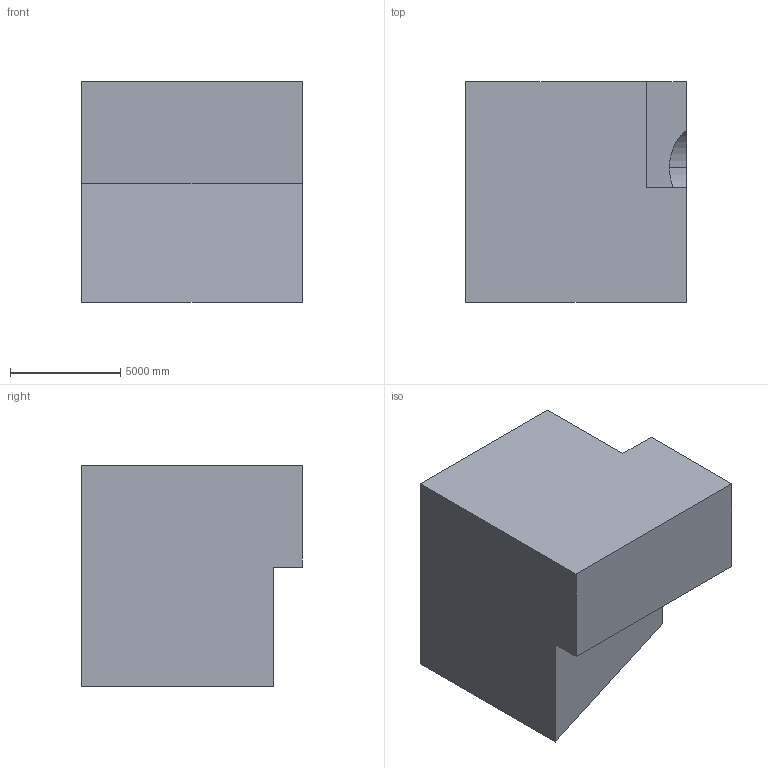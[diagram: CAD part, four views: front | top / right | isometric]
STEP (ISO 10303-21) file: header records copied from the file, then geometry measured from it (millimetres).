
FILE_DESCRIPTION (( 'STEP AP203' ), '1' );
FILE_NAME ('1344.STEP', '2022-08-18T13:57:32', ( 'user' ), ( '' ), 'SwSTEP 2.0', 'SolidWorks 2021', '' );
FILE_SCHEMA (( 'CONFIG_CONTROL_DESIGN' ));
Length unit declared in the file: centimetre
Products named in the file (1): 1344
Bounding box: 10000 x 10000 x 10000 mm (x, y, z)
Volume: 788952168126.4 mm3; surface area: 613339243.5 mm2
Topology: 1 solids, 1 shells, 20 faces, 51 edges, 34 vertices
Faces by surface type: plane 18, cylinder 2
Entity records: 676 total; most frequent: CARTESIAN_POINT 112, ORIENTED_EDGE 102, DIRECTION 95, EDGE_CURVE 51, VECTOR 45, LINE 45, VERTEX_POINT 34, AXIS2_PLACEMENT_3D 25
